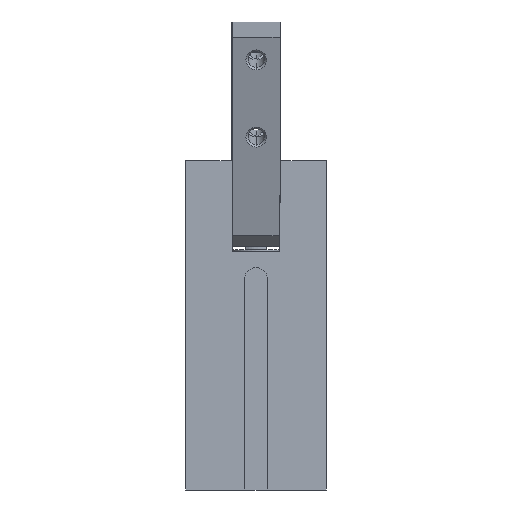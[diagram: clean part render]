
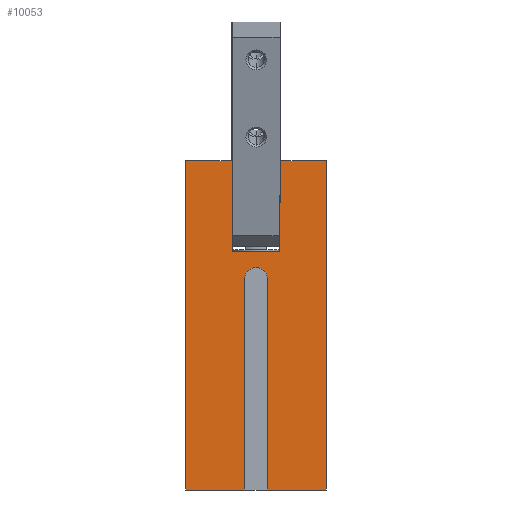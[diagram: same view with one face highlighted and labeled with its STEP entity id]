
A CAD part, left-side view. The second image highlights one B-rep face of the part: STEP entity #10053.
In plain terms, the highlighted planar face has unit normal (-1, 0, 0).
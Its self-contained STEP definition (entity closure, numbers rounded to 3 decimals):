
#94 = VERTEX_POINT ( 'NONE', #751 ) ;
#122 = EDGE_LOOP ( 'NONE', ( #11866, #2133, #10072, #1408, #6080, #13289, #10582, #17347, #16111, #16951, #15858, #13576 ) ) ;
#146 = CARTESIAN_POINT ( 'NONE',  ( -22.5, -5.95, 82. ) ) ;
#217 = DIRECTION ( 'NONE',  ( 0., -1., 0. ) ) ;
#509 = CARTESIAN_POINT ( 'NONE',  ( -22.5, 17.5, 82. ) ) ;
#584 = VECTOR ( 'NONE', #7858, 1000. ) ;
#751 = CARTESIAN_POINT ( 'NONE',  ( -22.5, -2.9, 0. ) ) ;
#807 = LINE ( 'NONE', #12231, #7318 ) ;
#844 = DIRECTION ( 'NONE',  ( 0., 0., 1. ) ) ;
#942 = VECTOR ( 'NONE', #3443, 1000. ) ;
#1408 = ORIENTED_EDGE ( 'NONE', *, *, #15230, .T. ) ;
#1788 = LINE ( 'NONE', #5402, #8762 ) ;
#1843 = EDGE_CURVE ( 'NONE', #18119, #14063, #16704, .T. ) ;
#1939 = VECTOR ( 'NONE', #217, 1000. ) ;
#1969 = LINE ( 'NONE', #9218, #13848 ) ;
#2133 = ORIENTED_EDGE ( 'NONE', *, *, #7033, .F. ) ;
#2178 = LINE ( 'NONE', #2207, #16941 ) ;
#2207 = CARTESIAN_POINT ( 'NONE',  ( -22.5, 17.5, 0. ) ) ;
#2620 = EDGE_CURVE ( 'NONE', #18226, #9448, #16223, .T. ) ;
#2775 = VERTEX_POINT ( 'NONE', #10040 ) ;
#3172 = VERTEX_POINT ( 'NONE', #9469 ) ;
#3292 = VERTEX_POINT ( 'NONE', #3485 ) ;
#3443 = DIRECTION ( 'NONE',  ( 0., -1., 0. ) ) ;
#3485 = CARTESIAN_POINT ( 'NONE',  ( -22.5, -17.5, 82. ) ) ;
#3507 = DIRECTION ( 'NONE',  ( 0., 0., -1. ) ) ;
#3848 = EDGE_CURVE ( 'NONE', #3292, #2775, #10191, .T. ) ;
#4133 = EDGE_CURVE ( 'NONE', #18226, #17048, #18469, .T. ) ;
#4219 = CARTESIAN_POINT ( 'NONE',  ( -22.5, 5.95, 59.5 ) ) ;
#4387 = DIRECTION ( 'NONE',  ( 0., 0., -1. ) ) ;
#4442 = CARTESIAN_POINT ( 'NONE',  ( -22.5, 0., 52.5 ) ) ;
#4452 = CARTESIAN_POINT ( 'NONE',  ( -22.5, -17.5, 82. ) ) ;
#4860 = LINE ( 'NONE', #18239, #14719 ) ;
#4902 = CARTESIAN_POINT ( 'NONE',  ( -22.5, -5.95, 59.5 ) ) ;
#5402 = CARTESIAN_POINT ( 'NONE',  ( -22.5, 17.5, 82. ) ) ;
#5682 = CARTESIAN_POINT ( 'NONE',  ( -22.5, 5.95, 59.5 ) ) ;
#5930 = VECTOR ( 'NONE', #8375, 1000. ) ;
#6025 = FACE_OUTER_BOUND ( 'NONE', #122, .T. ) ;
#6080 = ORIENTED_EDGE ( 'NONE', *, *, #7216, .T. ) ;
#6188 = VERTEX_POINT ( 'NONE', #14878 ) ;
#6373 = EDGE_CURVE ( 'NONE', #9448, #10609, #14066, .T. ) ;
#6847 = EDGE_CURVE ( 'NONE', #3172, #17048, #807, .T. ) ;
#7033 = EDGE_CURVE ( 'NONE', #18119, #6188, #4860, .T. ) ;
#7216 = EDGE_CURVE ( 'NONE', #94, #2775, #2178, .T. ) ;
#7318 = VECTOR ( 'NONE', #8106, 1000. ) ;
#7447 = CARTESIAN_POINT ( 'NONE',  ( -22.5, 17.5, 82. ) ) ;
#7858 = DIRECTION ( 'NONE',  ( 0., 0., 1. ) ) ;
#7939 = DIRECTION ( 'NONE',  ( 0., -1., 0. ) ) ;
#8106 = DIRECTION ( 'NONE',  ( 0., -1., 0. ) ) ;
#8279 = EDGE_CURVE ( 'NONE', #15040, #6188, #14936, .T. ) ;
#8375 = DIRECTION ( 'NONE',  ( 0., -1., 0. ) ) ;
#8480 = EDGE_CURVE ( 'NONE', #10609, #3292, #9502, .T. ) ;
#8762 = VECTOR ( 'NONE', #12539, 1000. ) ;
#8900 = CARTESIAN_POINT ( 'NONE',  ( -22.5, 17.5, 0. ) ) ;
#9218 = CARTESIAN_POINT ( 'NONE',  ( -22.5, -2.9, 0. ) ) ;
#9448 = VERTEX_POINT ( 'NONE', #4902 ) ;
#9469 = CARTESIAN_POINT ( 'NONE',  ( -22.5, 17.5, 82. ) ) ;
#9502 = LINE ( 'NONE', #509, #942 ) ;
#9798 = EDGE_CURVE ( 'NONE', #3172, #15040, #1788, .T. ) ;
#9915 = AXIS2_PLACEMENT_3D ( 'NONE', #7447, #13091, #11594 ) ;
#10040 = CARTESIAN_POINT ( 'NONE',  ( -22.5, -17.5, 0. ) ) ;
#10053 = ADVANCED_FACE ( 'NONE', ( #6025 ), #17451, .F. ) ;
#10072 = ORIENTED_EDGE ( 'NONE', *, *, #1843, .T. ) ;
#10158 = DIRECTION ( 'NONE',  ( 1., 0., 0. ) ) ;
#10165 = CARTESIAN_POINT ( 'NONE',  ( -22.5, 5.95, 82. ) ) ;
#10191 = LINE ( 'NONE', #4452, #11097 ) ;
#10582 = ORIENTED_EDGE ( 'NONE', *, *, #8480, .F. ) ;
#10609 = VERTEX_POINT ( 'NONE', #146 ) ;
#11097 = VECTOR ( 'NONE', #4387, 1000. ) ;
#11594 = DIRECTION ( 'NONE',  ( 0., 1., 0. ) ) ;
#11866 = ORIENTED_EDGE ( 'NONE', *, *, #8279, .T. ) ;
#12231 = CARTESIAN_POINT ( 'NONE',  ( -22.5, 17.5, 82. ) ) ;
#12443 = CARTESIAN_POINT ( 'NONE',  ( -22.5, -5.95, 59.5 ) ) ;
#12539 = DIRECTION ( 'NONE',  ( 0., 0., -1. ) ) ;
#12619 = DIRECTION ( 'NONE',  ( 0., 0., -1. ) ) ;
#13091 = DIRECTION ( 'NONE',  ( 1., 0., 0. ) ) ;
#13289 = ORIENTED_EDGE ( 'NONE', *, *, #3848, .F. ) ;
#13576 = ORIENTED_EDGE ( 'NONE', *, *, #9798, .T. ) ;
#13826 = CARTESIAN_POINT ( 'NONE',  ( -22.5, 2.9, 52.5 ) ) ;
#13848 = VECTOR ( 'NONE', #3507, 1000. ) ;
#14063 = VERTEX_POINT ( 'NONE', #14291 ) ;
#14066 = LINE ( 'NONE', #12443, #584 ) ;
#14291 = CARTESIAN_POINT ( 'NONE',  ( -22.5, -2.9, 52.5 ) ) ;
#14462 = DIRECTION ( 'NONE',  ( 0., 1., 0. ) ) ;
#14719 = VECTOR ( 'NONE', #12619, 1000. ) ;
#14878 = CARTESIAN_POINT ( 'NONE',  ( -22.5, 2.9, 0. ) ) ;
#14936 = LINE ( 'NONE', #8900, #1939 ) ;
#15040 = VERTEX_POINT ( 'NONE', #17146 ) ;
#15230 = EDGE_CURVE ( 'NONE', #14063, #94, #1969, .T. ) ;
#15858 = ORIENTED_EDGE ( 'NONE', *, *, #6847, .F. ) ;
#16111 = ORIENTED_EDGE ( 'NONE', *, *, #2620, .F. ) ;
#16223 = LINE ( 'NONE', #4219, #5930 ) ;
#16704 = CIRCLE ( 'NONE', #17670, 2.9 ) ;
#16941 = VECTOR ( 'NONE', #7939, 1000. ) ;
#16951 = ORIENTED_EDGE ( 'NONE', *, *, #4133, .T. ) ;
#17048 = VERTEX_POINT ( 'NONE', #10165 ) ;
#17146 = CARTESIAN_POINT ( 'NONE',  ( -22.5, 17.5, 0. ) ) ;
#17347 = ORIENTED_EDGE ( 'NONE', *, *, #6373, .F. ) ;
#17451 = PLANE ( 'NONE',  #9915 ) ;
#17544 = VECTOR ( 'NONE', #844, 1000. ) ;
#17670 = AXIS2_PLACEMENT_3D ( 'NONE', #4442, #10158, #14462 ) ;
#17883 = CARTESIAN_POINT ( 'NONE',  ( -22.5, 5.95, 59.5 ) ) ;
#18119 = VERTEX_POINT ( 'NONE', #13826 ) ;
#18226 = VERTEX_POINT ( 'NONE', #5682 ) ;
#18239 = CARTESIAN_POINT ( 'NONE',  ( -22.5, 2.9, 0. ) ) ;
#18469 = LINE ( 'NONE', #17883, #17544 ) ;
